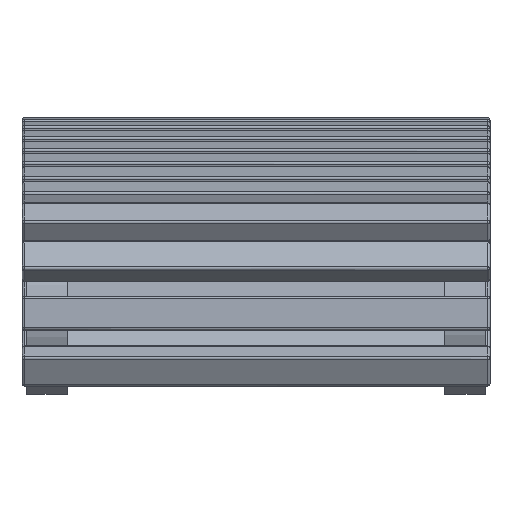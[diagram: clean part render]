
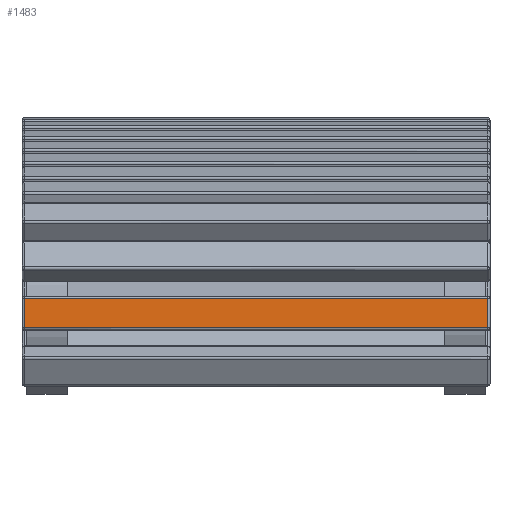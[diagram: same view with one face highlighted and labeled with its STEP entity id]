
A CAD part, front view. The second image highlights one B-rep face of the part: STEP entity #1483.
In plain terms, the highlighted planar face has unit normal (0, -0.999, 0.035).
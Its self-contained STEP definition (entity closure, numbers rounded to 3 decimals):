
#1483=ADVANCED_FACE('',(#2045),#7497,.T.);
#2045=FACE_OUTER_BOUND('',#2607,.T.);
#2607=EDGE_LOOP('',(#3673,#3674,#3675,#3676));
#3673=ORIENTED_EDGE('',*,*,#5611,.F.);
#3674=ORIENTED_EDGE('',*,*,#5612,.F.);
#3675=ORIENTED_EDGE('',*,*,#5613,.F.);
#3676=ORIENTED_EDGE('',*,*,#5614,.F.);
#5611=EDGE_CURVE('',#7080,#7079,#6475,.T.);
#5612=EDGE_CURVE('',#7081,#7080,#6476,.T.);
#5613=EDGE_CURVE('',#7082,#7081,#6477,.T.);
#5614=EDGE_CURVE('',#7079,#7082,#6478,.T.);
#6475=B_SPLINE_CURVE_WITH_KNOTS('',1,(#9713,#9714),.UNSPECIFIED.,.F.,.F.,
(2,2),(-14.2,43.2),.UNSPECIFIED.);
#6476=B_SPLINE_CURVE_WITH_KNOTS('',1,(#9715,#9716),.UNSPECIFIED.,.F.,.F.,
(2,2),(-0.75,2.85),.UNSPECIFIED.);
#6477=B_SPLINE_CURVE_WITH_KNOTS('',1,(#9717,#9718),.UNSPECIFIED.,.F.,.F.,
(2,2),(-14.2,43.2),.UNSPECIFIED.);
#6478=B_SPLINE_CURVE_WITH_KNOTS('',1,(#9719,#9720),.UNSPECIFIED.,.F.,.F.,
(2,2),(-0.75,2.85),.UNSPECIFIED.);
#7079=VERTEX_POINT('',#9673);
#7080=VERTEX_POINT('',#9674);
#7081=VERTEX_POINT('',#9675);
#7082=VERTEX_POINT('',#9676);
#7497=PLANE('',#7641);
#7641=AXIS2_PLACEMENT_3D('',#9511,#7768,$);
#7768=DIRECTION('',(0.,-0.999,0.035));
#9511=CARTESIAN_POINT('',(577.01,0.001,82.746));
#9673=CARTESIAN_POINT('',(577.,1.259,118.734));
#9674=CARTESIAN_POINT('',(3.,1.259,118.734));
#9675=CARTESIAN_POINT('',(3.,0.002,82.756));
#9676=CARTESIAN_POINT('',(577.,0.002,82.756));
#9713=CARTESIAN_POINT('',(3.,1.259,118.734));
#9714=CARTESIAN_POINT('',(577.,1.259,118.734));
#9715=CARTESIAN_POINT('',(3.,0.002,82.756));
#9716=CARTESIAN_POINT('',(3.,1.259,118.734));
#9717=CARTESIAN_POINT('',(577.,0.002,82.756));
#9718=CARTESIAN_POINT('',(3.,0.002,82.756));
#9719=CARTESIAN_POINT('',(577.,1.259,118.734));
#9720=CARTESIAN_POINT('',(577.,0.002,82.756));
